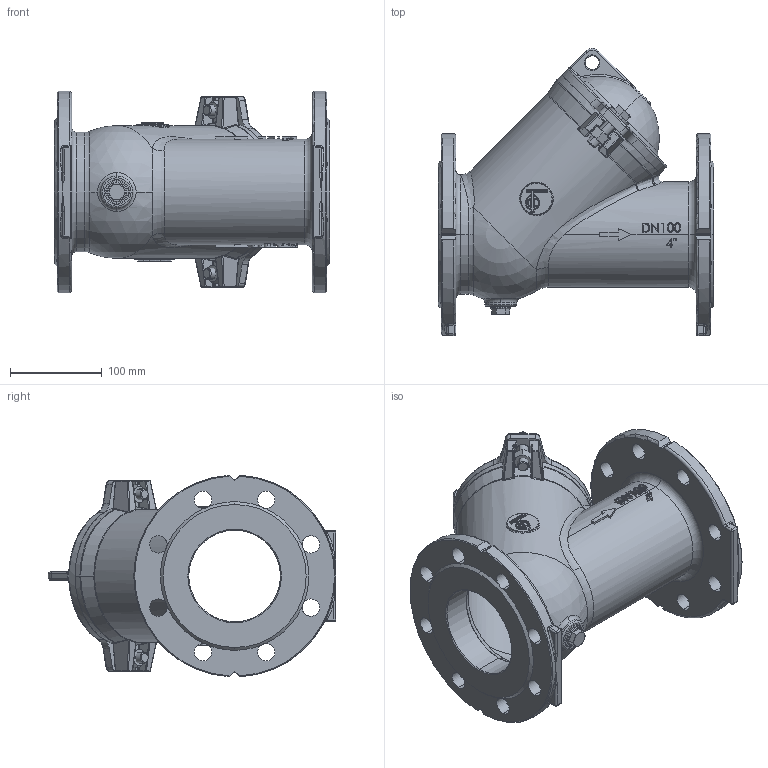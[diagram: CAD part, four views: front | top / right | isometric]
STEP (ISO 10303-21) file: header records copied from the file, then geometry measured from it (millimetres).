
FILE_DESCRIPTION (( 'STEP AP203' ), '1' );
FILE_NAME ('642000013-1.STEP', '2018-02-16T10:01:26', ( '' ), ( '' ), 'SwSTEP 2.0', 'SolidWorks 2017', '' );
FILE_SCHEMA (( 'CONFIG_CONTROL_DESIGN' ));
Length unit declared in the file: millimetre
Products named in the file (1): 642000013-1
Bounding box: 300 x 313 x 219.67 mm (x, y, z)
Surface area: 451926.7 mm2 (no closed solid volume)
Topology: 0 solids, 13 shells, 880 faces, 2413 edges, 1486 vertices
Faces by surface type: plane 273, cylinder 240, bspline 175, torus 92, cone 63, sphere 37
Entity records: 39743 total; most frequent: CARTESIAN_POINT 18941, ORIENTED_EDGE 4400, DIRECTION 4053, EDGE_CURVE 2373, AXIS2_PLACEMENT_3D 1534, VERTEX_POINT 1476, VECTOR 985, LINE 985
